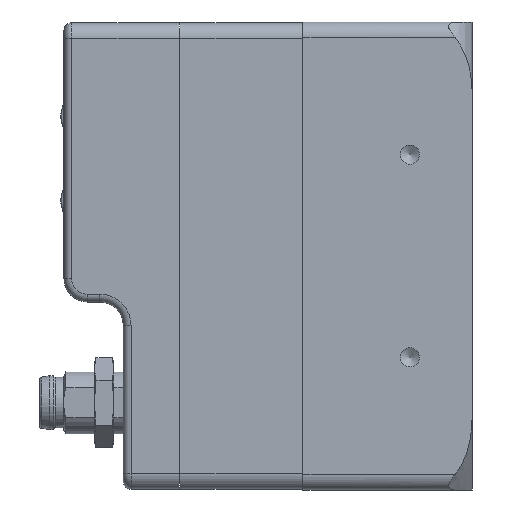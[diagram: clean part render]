
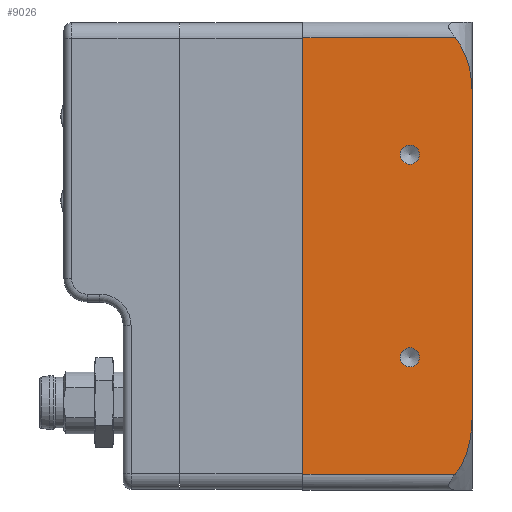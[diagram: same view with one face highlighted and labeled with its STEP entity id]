
A CAD part, left-side view. The second image highlights one B-rep face of the part: STEP entity #9026.
In plain terms, the highlighted planar face has unit normal (-1, 0, 0).
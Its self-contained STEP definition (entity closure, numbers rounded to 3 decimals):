
#9026 = ADVANCED_FACE( '', ( #20199, #20200, #20201 ), #20202, .T. );
#20199 = FACE_BOUND( '', #38237, .T. );
#20200 = FACE_BOUND( '', #38238, .T. );
#20201 = FACE_OUTER_BOUND( '', #38239, .T. );
#20202 = PLANE( '', #38240 );
#38237 = EDGE_LOOP( '', ( #72291 ) );
#38238 = EDGE_LOOP( '', ( #72292 ) );
#38239 = EDGE_LOOP( '', ( #72293, #72294, #72295, #72296, #72297, #72298 ) );
#38240 = AXIS2_PLACEMENT_3D( '', #72299, #72300, #72301 );
#72291 = ORIENTED_EDGE( '', *, *, #93233, .T. );
#72292 = ORIENTED_EDGE( '', *, *, #95329, .T. );
#72293 = ORIENTED_EDGE( '', *, *, #100185, .T. );
#72294 = ORIENTED_EDGE( '', *, *, #100186, .T. );
#72295 = ORIENTED_EDGE( '', *, *, #100187, .T. );
#72296 = ORIENTED_EDGE( '', *, *, #92873, .F. );
#72297 = ORIENTED_EDGE( '', *, *, #100188, .T. );
#72298 = ORIENTED_EDGE( '', *, *, #100189, .F. );
#72299 = CARTESIAN_POINT( '', ( -30., -22.7, -30. ) );
#72300 = DIRECTION( '', ( -1., 0., 0. ) );
#72301 = DIRECTION( '', ( 0., -1., 0. ) );
#92873 = EDGE_CURVE( '', #110846, #110848, #110849, .T. );
#93233 = EDGE_CURVE( '', #111449, #111449, #111450, .T. );
#95329 = EDGE_CURVE( '', #114790, #114790, #114791, .T. );
#100185 = EDGE_CURVE( '', #121734, #121735, #121736, .T. );
#100186 = EDGE_CURVE( '', #121735, #121737, #121738, .T. );
#100187 = EDGE_CURVE( '', #121737, #110848, #121739, .F. );
#100188 = EDGE_CURVE( '', #110846, #121740, #121741, .T. );
#100189 = EDGE_CURVE( '', #121734, #121740, #121742, .T. );
#110846 = VERTEX_POINT( '', #136423 );
#110848 = VERTEX_POINT( '', #136425 );
#110849 = B_SPLINE_CURVE_WITH_KNOTS( '', 3, ( #136426, #136427, #136428, #136429, #136430, #136431, #136432, #136433, #136434, #136435, #136436, #136437 ), .UNSPECIFIED., .F., .F., ( 4, 2, 2, 2, 2, 4 ), ( 0.051, 0.053, 0.055, 0.056, 0.057, 0.059 ), .UNSPECIFIED. );
#111449 = VERTEX_POINT( '', #137290 );
#111450 = CIRCLE( '', #137291, 1.23 );
#114790 = VERTEX_POINT( '', #142597 );
#114791 = CIRCLE( '', #142598, 1.23 );
#121734 = VERTEX_POINT( '', #153665 );
#121735 = VERTEX_POINT( '', #153666 );
#121736 = LINE( '', #153667, #153668 );
#121737 = VERTEX_POINT( '', #153669 );
#121738 = LINE( '', #153670, #153671 );
#121739 = LINE( '', #153672, #153673 );
#121740 = VERTEX_POINT( '', #153674 );
#121741 = LINE( '', #153675, #153676 );
#121742 = B_SPLINE_CURVE_WITH_KNOTS( '', 3, ( #153677, #153678, #153679, #153680, #153681, #153682, #153683, #153684, #153685, #153686, #153687, #153688 ), .UNSPECIFIED., .F., .F., ( 4, 2, 2, 2, 2, 4 ), ( 0.035, 0.036, 0.037, 0.039, 0.041, 0.043 ), .UNSPECIFIED. );
#136423 = CARTESIAN_POINT( '', ( -30., -22.7, -20.604 ) );
#136425 = CARTESIAN_POINT( '', ( -30., -20.501, -28. ) );
#136426 = CARTESIAN_POINT( '', ( -30., -22.7, -20.604 ) );
#136427 = CARTESIAN_POINT( '', ( -30., -22.7, -21.258 ) );
#136428 = CARTESIAN_POINT( '', ( -30., -22.666, -21.919 ) );
#136429 = CARTESIAN_POINT( '', ( -30., -22.513, -23.223 ) );
#136430 = CARTESIAN_POINT( '', ( -30., -22.395, -23.867 ) );
#136431 = CARTESIAN_POINT( '', ( -30., -22.14, -24.82 ) );
#136432 = CARTESIAN_POINT( '', ( -30., -22.041, -25.136 ) );
#136433 = CARTESIAN_POINT( '', ( -30., -21.816, -25.753 ) );
#136434 = CARTESIAN_POINT( '', ( -30., -21.69, -26.054 ) );
#136435 = CARTESIAN_POINT( '', ( -30., -21.267, -26.934 ) );
#136436 = CARTESIAN_POINT( '', ( -30., -20.926, -27.49 ) );
#136437 = CARTESIAN_POINT( '', ( -30., -20.501, -28. ) );
#137290 = CARTESIAN_POINT( '', ( -30., -14.7, -14.23 ) );
#137291 = AXIS2_PLACEMENT_3D( '', #165756, #165757, #165758 );
#142597 = CARTESIAN_POINT( '', ( -30., -14.7, 11.771 ) );
#142598 = AXIS2_PLACEMENT_3D( '', #168342, #168343, #168344 );
#153665 = CARTESIAN_POINT( '', ( -30., -20.501, 28. ) );
#153666 = CARTESIAN_POINT( '', ( -30., -1., 28. ) );
#153667 = CARTESIAN_POINT( '', ( -30., -22.7, 28. ) );
#153668 = VECTOR( '', #173693, 1000. );
#153669 = CARTESIAN_POINT( '', ( -30., -1., -28. ) );
#153670 = CARTESIAN_POINT( '', ( -30., -1., -30. ) );
#153671 = VECTOR( '', #173694, 1000. );
#153672 = CARTESIAN_POINT( '', ( -30., -22.7, -28. ) );
#153673 = VECTOR( '', #173695, 1000. );
#153674 = CARTESIAN_POINT( '', ( -30., -22.7, 20.604 ) );
#153675 = CARTESIAN_POINT( '', ( -30., -22.7, -30. ) );
#153676 = VECTOR( '', #173696, 1000. );
#153677 = CARTESIAN_POINT( '', ( -30., -20.501, 28. ) );
#153678 = CARTESIAN_POINT( '', ( -30., -20.711, 27.748 ) );
#153679 = CARTESIAN_POINT( '', ( -30., -20.904, 27.48 ) );
#153680 = CARTESIAN_POINT( '', ( -30., -21.257, 26.919 ) );
#153681 = CARTESIAN_POINT( '', ( -30., -21.414, 26.63 ) );
#153682 = CARTESIAN_POINT( '', ( -30., -21.838, 25.744 ) );
#153683 = CARTESIAN_POINT( '', ( -30., -22.058, 25.127 ) );
#153684 = CARTESIAN_POINT( '', ( -30., -22.398, 23.851 ) );
#153685 = CARTESIAN_POINT( '', ( -30., -22.515, 23.205 ) );
#153686 = CARTESIAN_POINT( '', ( -30., -22.666, 21.909 ) );
#153687 = CARTESIAN_POINT( '', ( -30., -22.7, 21.258 ) );
#153688 = CARTESIAN_POINT( '', ( -30., -22.7, 20.604 ) );
#165756 = CARTESIAN_POINT( '', ( -30., -14.7, -13. ) );
#165757 = DIRECTION( '', ( 1., 0., 0. ) );
#165758 = DIRECTION( '', ( 0., 0., -1. ) );
#168342 = CARTESIAN_POINT( '', ( -30., -14.7, 13. ) );
#168343 = DIRECTION( '', ( 1., 0., 0. ) );
#168344 = DIRECTION( '', ( 0., 0., -1. ) );
#173693 = DIRECTION( '', ( 0., 1., 0. ) );
#173694 = DIRECTION( '', ( 0., 0., -1. ) );
#173695 = DIRECTION( '', ( 0., 1., 0. ) );
#173696 = DIRECTION( '', ( 0., 0., 1. ) );
